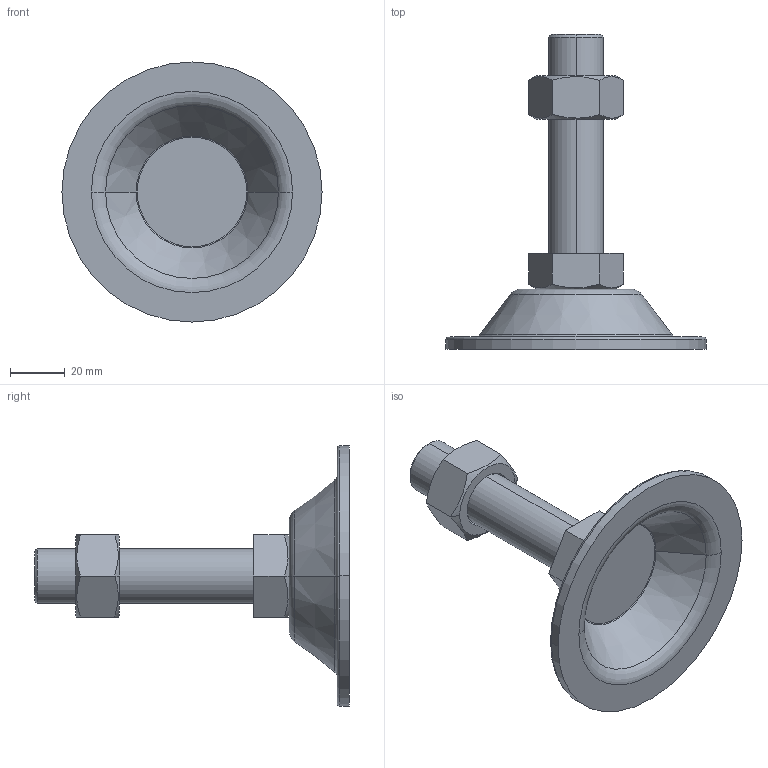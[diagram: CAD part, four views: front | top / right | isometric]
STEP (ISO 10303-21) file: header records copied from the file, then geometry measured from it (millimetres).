
FILE_DESCRIPTION (( 'STEP AP214' ), '1' );
FILE_NAME ('BL95-M20-80.step', '2021-01-06T05:41:59', ( '' ), ( '' ), 'SwSTEP 2.0', 'SolidWorks 2019', '' );
FILE_SCHEMA (( 'AUTOMOTIVE_DESIGN' ));
Length unit declared in the file: millimetre
Products named in the file (1): BL95-M20-80
Bounding box: 95 x 115 x 95 mm (x, y, z)
Volume: 80762.4 mm3; surface area: 29527.3 mm2
Topology: 3 solids, 3 shells, 53 faces, 110 edges, 66 vertices
Faces by surface type: plane 21, cone 16, torus 10, cylinder 6
Entity records: 1630 total; most frequent: CARTESIAN_POINT 440, DIRECTION 252, ORIENTED_EDGE 220, EDGE_CURVE 110, AXIS2_PLACEMENT_3D 106, VERTEX_POINT 66, EDGE_LOOP 58, FACE_OUTER_BOUND 53
